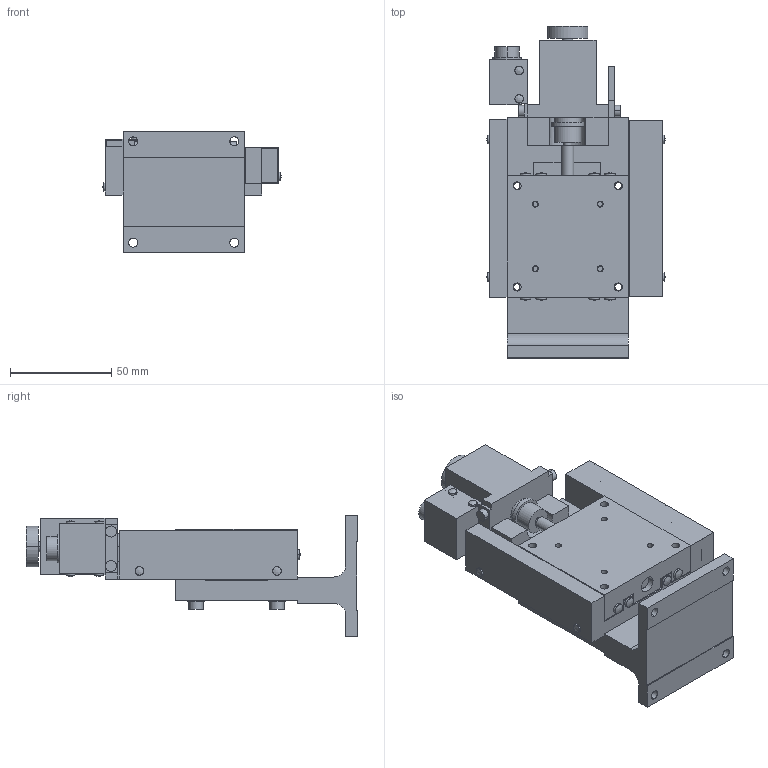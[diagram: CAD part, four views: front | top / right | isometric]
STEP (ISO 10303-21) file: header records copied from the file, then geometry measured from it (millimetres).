
FILE_DESCRIPTION (( 'STEP AP203' ), '1' );
FILE_NAME ('ALZ-6012-G1M-SA.STEP', '2017-11-14T06:08:33', ( '' ), ( '' ), 'SwSTEP 2.0', 'SolidWorks 2016', '' );
FILE_SCHEMA (( 'CONFIG_CONTROL_DESIGN' ));
Length unit declared in the file: millimetre
Products named in the file (3): ALZ-6012-G1M-SA-1; ALZ-6012-G1M-SA-2; ALZ-6012-G1M-SA
Assembly tree (2 placements, depth 2):
  ALZ-6012-G1M-SA
    ALZ-6012-G1M-SA-1
    ALZ-6012-G1M-SA-2
Bounding box: 88.11 x 164 x 60 mm (x, y, z)
Volume: 253304.3 mm3; surface area: 84057.8 mm2
Topology: 2 solids, 7 shells, 401 faces, 969 edges, 633 vertices
Faces by surface type: plane 204, cylinder 149, cone 32, bspline 16
Entity records: 15282 total; most frequent: CARTESIAN_POINT 5262, DIRECTION 2071, ORIENTED_EDGE 1938, EDGE_CURVE 969, AXIS2_PLACEMENT_3D 746, VERTEX_POINT 633, VECTOR 579, LINE 579
